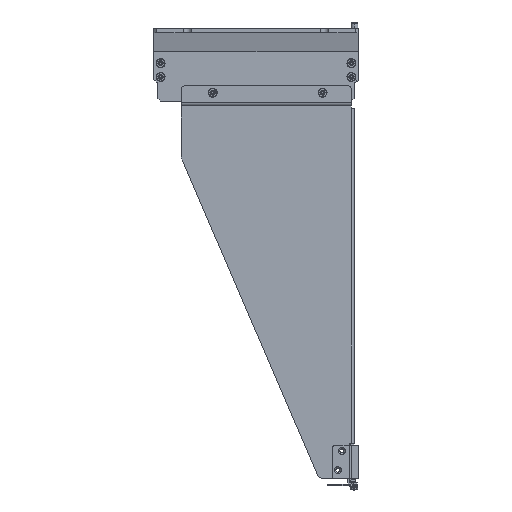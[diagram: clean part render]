
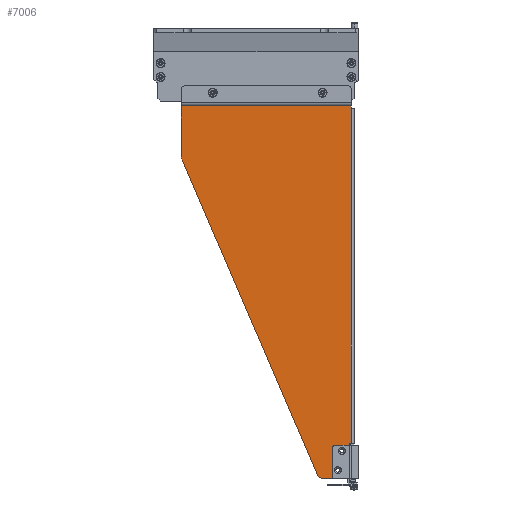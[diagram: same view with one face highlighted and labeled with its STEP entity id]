
A CAD part, left-side view. The second image highlights one B-rep face of the part: STEP entity #7006.
In plain terms, the highlighted planar face has unit normal (-1, 0, 0).
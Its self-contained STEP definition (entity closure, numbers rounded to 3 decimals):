
#6177=DIRECTION('',(0.,0.,-1.));
#6178=VECTOR('',#6177,243.6);
#6179=CARTESIAN_POINT('',(-217.,-60.8,-58.4));
#6180=LINE('',#6179,#6178);
#6191=DIRECTION('',(0.,0.,-1.));
#6192=VECTOR('',#6191,26.);
#6193=CARTESIAN_POINT('',(-217.,-59.5,-302.));
#6194=LINE('',#6193,#6192);
#6195=DIRECTION('',(0.,1.,0.));
#6196=VECTOR('',#6195,18.707);
#6197=CARTESIAN_POINT('',(-217.,-59.5,-328.));
#6198=LINE('',#6197,#6196);
#6199=CARTESIAN_POINT('',(-217.,-40.793,-323.));
#6200=DIRECTION('',(-1.,0.,0.));
#6201=DIRECTION('',(0.,0.919,-0.395));
#6202=AXIS2_PLACEMENT_3D('',#6199,#6200,#6201);
#6204=DIRECTION('',(0.,-0.395,-0.919));
#6205=VECTOR('',#6204,249.134);
#6206=CARTESIAN_POINT('',(-217.,62.187,-96.091));
#6207=LINE('',#6206,#6205);
#6208=CARTESIAN_POINT('',(-217.,53.,-92.142));
#6209=DIRECTION('',(-1.,0.,0.));
#6210=DIRECTION('',(0.,1.,0.));
#6211=AXIS2_PLACEMENT_3D('',#6208,#6209,#6210);
#6213=DIRECTION('',(0.,0.,-1.));
#6214=VECTOR('',#6213,35.742);
#6215=CARTESIAN_POINT('',(-217.,63.,-56.4));
#6216=LINE('',#6215,#6214);
#6217=DIRECTION('',(0.,0.,1.));
#6218=VECTOR('',#6217,2.);
#6219=CARTESIAN_POINT('',(-217.,-61.,-58.4));
#6220=LINE('',#6219,#6218);
#6221=DIRECTION('',(0.,-1.,0.));
#6222=VECTOR('',#6221,0.2);
#6223=CARTESIAN_POINT('',(-217.,-60.8,-58.4));
#6224=LINE('',#6223,#6222);
#6225=CARTESIAN_POINT('',(-217.,-54.1,-307.7));
#6226=DIRECTION('',(1.,0.,0.));
#6227=DIRECTION('',(0.,0.,1.));
#6228=AXIS2_PLACEMENT_3D('',#6225,#6226,#6227);
#6230=CARTESIAN_POINT('',(-217.,-54.1,-307.7));
#6231=DIRECTION('',(1.,0.,0.));
#6232=DIRECTION('',(0.,0.,-1.));
#6233=AXIS2_PLACEMENT_3D('',#6230,#6231,#6232);
#6235=CARTESIAN_POINT('',(-217.,-51.1,-321.7));
#6236=DIRECTION('',(1.,0.,0.));
#6237=DIRECTION('',(0.,0.,1.));
#6238=AXIS2_PLACEMENT_3D('',#6235,#6236,#6237);
#6240=CARTESIAN_POINT('',(-217.,-51.1,-321.7));
#6241=DIRECTION('',(1.,0.,0.));
#6242=DIRECTION('',(0.,0.,-1.));
#6243=AXIS2_PLACEMENT_3D('',#6240,#6241,#6242);
#6245=DIRECTION('',(0.,-1.,0.));
#6246=VECTOR('',#6245,1.3);
#6247=CARTESIAN_POINT('',(-217.,-59.5,-302.));
#6248=LINE('',#6247,#6246);
#6540=DIRECTION('',(0.,1.,0.));
#6541=VECTOR('',#6540,124.);
#6542=CARTESIAN_POINT('',(-217.,-61.,-56.4));
#6543=LINE('',#6542,#6541);
#6637=CARTESIAN_POINT('',(-217.,63.,-56.4));
#6638=VERTEX_POINT('',#6637);
#6639=CARTESIAN_POINT('',(-217.,-61.,-56.4));
#6640=VERTEX_POINT('',#6639);
#6701=CARTESIAN_POINT('',(-217.,63.,-92.142));
#6702=VERTEX_POINT('',#6701);
#6703=CARTESIAN_POINT('',(-217.,62.187,-96.091));
#6704=VERTEX_POINT('',#6703);
#6709=CARTESIAN_POINT('',(-217.,-36.2,-324.975));
#6710=VERTEX_POINT('',#6709);
#6711=CARTESIAN_POINT('',(-217.,-40.793,-328.));
#6712=VERTEX_POINT('',#6711);
#6717=CARTESIAN_POINT('',(-217.,-60.8,-58.4));
#6718=CARTESIAN_POINT('',(-217.,-61.,-58.4));
#6719=VERTEX_POINT('',#6717);
#6720=VERTEX_POINT('',#6718);
#6725=CARTESIAN_POINT('',(-217.,-60.8,-302.));
#6726=VERTEX_POINT('',#6725);
#6755=CARTESIAN_POINT('',(-217.,-59.5,-328.));
#6756=VERTEX_POINT('',#6755);
#6759=CARTESIAN_POINT('',(-217.,-59.5,-302.));
#6760=VERTEX_POINT('',#6759);
#6761=CARTESIAN_POINT('',(-217.,-51.1,-320.2));
#6762=CARTESIAN_POINT('',(-217.,-51.1,-323.2));
#6763=VERTEX_POINT('',#6761);
#6764=VERTEX_POINT('',#6762);
#6765=CARTESIAN_POINT('',(-217.,-54.1,-306.2));
#6766=CARTESIAN_POINT('',(-217.,-54.1,-309.2));
#6767=VERTEX_POINT('',#6765);
#6768=VERTEX_POINT('',#6766);
#6966=CARTESIAN_POINT('',(-217.,0.,0.));
#6967=DIRECTION('',(1.,0.,0.));
#6968=DIRECTION('',(0.,0.,-1.));
#6969=AXIS2_PLACEMENT_3D('',#6966,#6967,#6968);
#6970=PLANE('',#6969);
#6972=ORIENTED_EDGE('',*,*,#6971,.F.);
#6974=ORIENTED_EDGE('',*,*,#6973,.T.);
#6976=ORIENTED_EDGE('',*,*,#6975,.T.);
#6978=ORIENTED_EDGE('',*,*,#6977,.F.);
#6980=ORIENTED_EDGE('',*,*,#6979,.F.);
#6982=ORIENTED_EDGE('',*,*,#6981,.F.);
#6984=ORIENTED_EDGE('',*,*,#6983,.F.);
#6986=ORIENTED_EDGE('',*,*,#6985,.F.);
#6988=ORIENTED_EDGE('',*,*,#6987,.F.);
#6990=ORIENTED_EDGE('',*,*,#6989,.F.);
#6991=ORIENTED_EDGE('',*,*,#6957,.T.);
#6992=EDGE_LOOP('',(#6972,#6974,#6976,#6978,#6980,#6982,#6984,#6986,#6988,#6990,
#6991));
#6993=FACE_OUTER_BOUND('',#6992,.F.);
#6995=ORIENTED_EDGE('',*,*,#6994,.F.);
#6997=ORIENTED_EDGE('',*,*,#6996,.F.);
#6998=EDGE_LOOP('',(#6995,#6997));
#6999=FACE_BOUND('',#6998,.F.);
#7001=ORIENTED_EDGE('',*,*,#7000,.F.);
#7003=ORIENTED_EDGE('',*,*,#7002,.F.);
#7004=EDGE_LOOP('',(#7001,#7003));
#7005=FACE_BOUND('',#7004,.F.);
#7006=ADVANCED_FACE('',(#6993,#6999,#7005),#6970,.F.);
#6203=CIRCLE('',#6202,5.);
#6212=CIRCLE('',#6211,10.);
#6229=CIRCLE('',#6228,1.5);
#6234=CIRCLE('',#6233,1.5);
#6239=CIRCLE('',#6238,1.5);
#6244=CIRCLE('',#6243,1.5);
#6957=EDGE_CURVE('',#6719,#6726,#6180,.T.);
#6971=EDGE_CURVE('',#6760,#6726,#6248,.T.);
#6973=EDGE_CURVE('',#6760,#6756,#6194,.T.);
#6975=EDGE_CURVE('',#6756,#6712,#6198,.T.);
#6977=EDGE_CURVE('',#6710,#6712,#6203,.T.);
#6979=EDGE_CURVE('',#6704,#6710,#6207,.T.);
#6981=EDGE_CURVE('',#6702,#6704,#6212,.T.);
#6983=EDGE_CURVE('',#6638,#6702,#6216,.T.);
#6985=EDGE_CURVE('',#6640,#6638,#6543,.T.);
#6987=EDGE_CURVE('',#6720,#6640,#6220,.T.);
#6989=EDGE_CURVE('',#6719,#6720,#6224,.T.);
#6994=EDGE_CURVE('',#6767,#6768,#6229,.T.);
#6996=EDGE_CURVE('',#6768,#6767,#6234,.T.);
#7000=EDGE_CURVE('',#6763,#6764,#6239,.T.);
#7002=EDGE_CURVE('',#6764,#6763,#6244,.T.);
